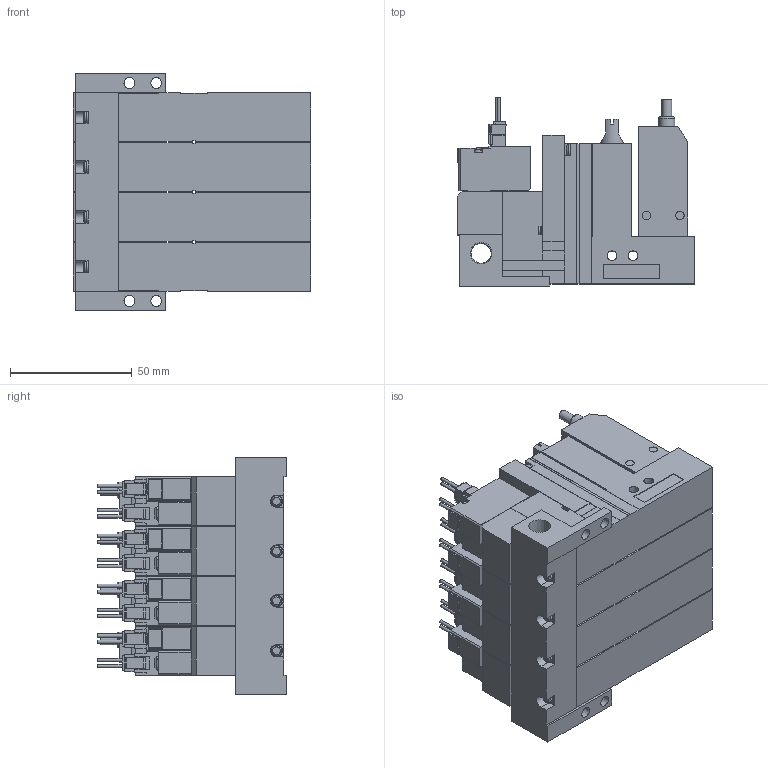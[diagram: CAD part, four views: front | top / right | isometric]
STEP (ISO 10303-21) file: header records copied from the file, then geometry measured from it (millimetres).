
FILE_DESCRIPTION(('STEP AP203'),'1');
FILE_NAME('ABS_ABPLC5ALR404.stp','2025-02-18T23:32:55',(' '),(' '),'Spatial InterOp 3D',' ',' ');
FILE_SCHEMA(('CONFIG_CONTROL_DESIGN'));
Length unit declared in the file: millimetre
Products named in the file (5): BMC22M※※※※ABS_ABPLC5ALR404; Solenoid valve A; Pressure sensor ABSLC; Unit LC; Base MR40R
Assembly tree (13 placements, depth 2):
  BMC22M※※※※ABS_ABPLC5ALR404
    Solenoid valve A  x4
    Pressure sensor ABSLC  x4
    Unit LC  x4
    Base MR40R
Bounding box: 97.6 x 77.45 x 97.5 mm (x, y, z)
Volume: 411765.8 mm3; surface area: 108168.7 mm2
Topology: 13 solids, 13 shells, 1665 faces, 4463 edges, 2928 vertices
Faces by surface type: plane 1414, cylinder 197, cone 30, torus 24
Full cylindrical faces by diameter (mm): 1.4 x16, 2.5 x4, 3 x16, 3.5 x24, 3.6 x4, 4 x12, 4.134 x4, 4.5 x4, 5.2 x4, 6 x4, 6.5 x4, 6.6 x4, 8.279 x1
Entity records: 14866 total; most frequent: CARTESIAN_POINT 2820, ORIENTED_EDGE 2362, DIRECTION 2356, EDGE_CURVE 1181, LINE 980, VECTOR 980, VERTEX_POINT 816, AXIS2_PLACEMENT_3D 688
